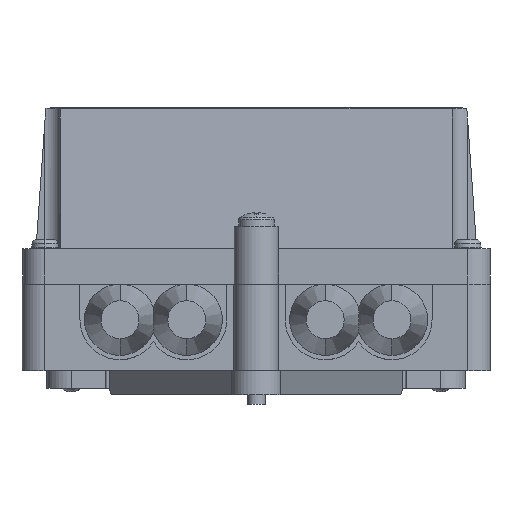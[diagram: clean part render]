
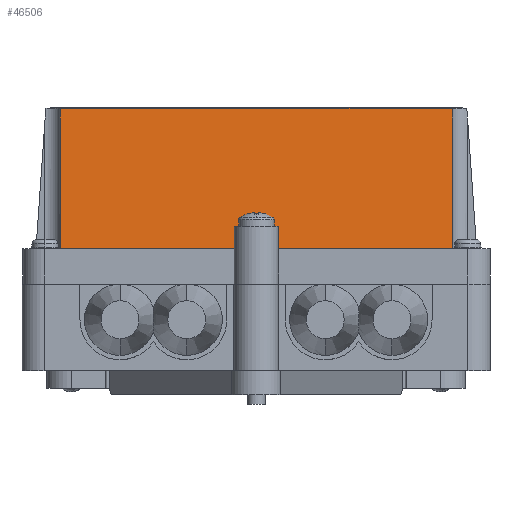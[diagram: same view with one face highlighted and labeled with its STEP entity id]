
A CAD part, front view. The second image highlights one B-rep face of the part: STEP entity #46506.
In plain terms, the highlighted planar face has unit normal (0, -0.998, 0.07).
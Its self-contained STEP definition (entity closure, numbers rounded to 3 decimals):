
#514 = LINE ( 'NONE', #49037, #30630 ) ;
#746 = EDGE_CURVE ( 'NONE', #20355, #37172, #73102, .T. ) ;
#907 = AXIS2_PLACEMENT_3D ( 'NONE', #26429, #2496, #44560 ) ;
#1738 = EDGE_LOOP ( 'NONE', ( #21098, #49455, #35083, #21026, #41678, #20118, #62234, #34161, #58195, #71707 ) ) ;
#2496 = DIRECTION ( 'NONE',  ( 0., -0.998, 0.07 ) ) ;
#2599 = CARTESIAN_POINT ( 'NONE',  ( -43.171, -23.964, 0. ) ) ;
#2615 = CARTESIAN_POINT ( 'NONE',  ( -43.177, -21.762, 31.5 ) ) ;
#4101 = VECTOR ( 'NONE', #27715, 1000. ) ;
#4158 = CARTESIAN_POINT ( 'NONE',  ( 44.829, -21.897, 29.568 ) ) ;
#4660 = CARTESIAN_POINT ( 'NONE',  ( 44.835, -21.762, 31.5 ) ) ;
#6947 = LINE ( 'NONE', #10438, #38939 ) ;
#6954 = FACE_OUTER_BOUND ( 'NONE', #1738, .T. ) ;
#9515 = CARTESIAN_POINT ( 'NONE',  ( 0., -21.762, 31.5 ) ) ;
#10438 = CARTESIAN_POINT ( 'NONE',  ( -48.671, -23.964, 0. ) ) ;
#10624 = CARTESIAN_POINT ( 'NONE',  ( 44.829, -21.964, 28.601 ) ) ;
#11756 = CARTESIAN_POINT ( 'NONE',  ( 48.329, -23.615, 5. ) ) ;
#14038 = DIRECTION ( 'NONE',  ( 0., -0.07, -0.998 ) ) ;
#15621 = LINE ( 'NONE', #2599, #61888 ) ;
#16511 = DIRECTION ( 'NONE',  ( 1., 0., 0. ) ) ;
#18978 = DIRECTION ( 'NONE',  ( 1., 0., 0. ) ) ;
#19560 = CARTESIAN_POINT ( 'NONE',  ( -4.171, -23.964, 0. ) ) ;
#19615 = CARTESIAN_POINT ( 'NONE',  ( -43.171, -21.897, 29.568 ) ) ;
#19726 = CARTESIAN_POINT ( 'NONE',  ( 5.829, -23.615, 5. ) ) ;
#20107 = EDGE_CURVE ( 'NONE', #51705, #61430, #23204, .T. ) ;
#20118 = ORIENTED_EDGE ( 'NONE', *, *, #44382, .T. ) ;
#20355 = VERTEX_POINT ( 'NONE', #34553 ) ;
#20599 = EDGE_CURVE ( 'NONE', #66283, #61430, #514, .T. ) ;
#20677 = DIRECTION ( 'NONE',  ( 0., 0.07, 0.998 ) ) ;
#21026 = ORIENTED_EDGE ( 'NONE', *, *, #20107, .F. ) ;
#21098 = ORIENTED_EDGE ( 'NONE', *, *, #746, .F. ) ;
#22255 = VECTOR ( 'NONE', #53971, 1000. ) ;
#23204 = LINE ( 'NONE', #50163, #55324 ) ;
#23727 = EDGE_CURVE ( 'NONE', #37172, #43423, #52123, .T. ) ;
#25723 = CARTESIAN_POINT ( 'NONE',  ( -43.171, -21.964, 28.601 ) ) ;
#26429 = CARTESIAN_POINT ( 'NONE',  ( -48.671, -23.964, 0. ) ) ;
#26818 = LINE ( 'NONE', #70127, #40901 ) ;
#27715 = DIRECTION ( 'NONE',  ( 1., 0., 0. ) ) ;
#30630 = VECTOR ( 'NONE', #18978, 1000. ) ;
#34161 = ORIENTED_EDGE ( 'NONE', *, *, #42209, .F. ) ;
#34553 = CARTESIAN_POINT ( 'NONE',  ( -43.171, -21.964, 28.601 ) ) ;
#35083 = ORIENTED_EDGE ( 'NONE', *, *, #20599, .T. ) ;
#37172 = VERTEX_POINT ( 'NONE', #2615 ) ;
#38472 = PLANE ( 'NONE',  #907 ) ;
#38939 = VECTOR ( 'NONE', #16511, 1000. ) ;
#39972 = VERTEX_POINT ( 'NONE', #65707 ) ;
#40901 = VECTOR ( 'NONE', #46043, 1000. ) ;
#41678 = ORIENTED_EDGE ( 'NONE', *, *, #60666, .F. ) ;
#42092 = EDGE_CURVE ( 'NONE', #43423, #56738, #64368, .T. ) ;
#42209 = EDGE_CURVE ( 'NONE', #56738, #78092, #43094, .T. ) ;
#42554 = EDGE_CURVE ( 'NONE', #66283, #20355, #15621, .T. ) ;
#43094 = LINE ( 'NONE', #52927, #59173 ) ;
#43423 = VERTEX_POINT ( 'NONE', #66975 ) ;
#44382 = EDGE_CURVE ( 'NONE', #50911, #39972, #26818, .T. ) ;
#44560 = DIRECTION ( 'NONE',  ( 0., -0.07, -0.998 ) ) ;
#46043 = DIRECTION ( 'NONE',  ( 0., -0.07, -0.998 ) ) ;
#46506 = ADVANCED_FACE ( 'NONE', ( #6954 ), #38472, .T. ) ;
#46559 = DIRECTION ( 'NONE',  ( 0., -0.07, -0.998 ) ) ;
#47014 = CARTESIAN_POINT ( 'NONE',  ( -4.171, -23.615, 5. ) ) ;
#49037 = CARTESIAN_POINT ( 'NONE',  ( -48.671, -23.964, 0. ) ) ;
#49455 = ORIENTED_EDGE ( 'NONE', *, *, #42554, .F. ) ;
#50163 = CARTESIAN_POINT ( 'NONE',  ( -4.171, -23.964, 0. ) ) ;
#50911 = VERTEX_POINT ( 'NONE', #19726 ) ;
#51705 = VERTEX_POINT ( 'NONE', #47014 ) ;
#52123 = LINE ( 'NONE', #9515, #4101 ) ;
#52927 = CARTESIAN_POINT ( 'NONE',  ( 44.829, -23.964, 0. ) ) ;
#53971 = DIRECTION ( 'NONE',  ( -1., 0., 0. ) ) ;
#55324 = VECTOR ( 'NONE', #14038, 1000. ) ;
#56738 = VERTEX_POINT ( 'NONE', #72641 ) ;
#58195 = ORIENTED_EDGE ( 'NONE', *, *, #42092, .F. ) ;
#58761 = EDGE_CURVE ( 'NONE', #39972, #78092, #6947, .T. ) ;
#59173 = VECTOR ( 'NONE', #46559, 1000. ) ;
#60666 = EDGE_CURVE ( 'NONE', #50911, #51705, #68520, .T. ) ;
#60783 = CARTESIAN_POINT ( 'NONE',  ( -43.171, -23.964, 0. ) ) ;
#61430 = VERTEX_POINT ( 'NONE', #19560 ) ;
#61823 = CARTESIAN_POINT ( 'NONE',  ( -43.173, -21.829, 30.535 ) ) ;
#61888 = VECTOR ( 'NONE', #20677, 1000. ) ;
#62234 = ORIENTED_EDGE ( 'NONE', *, *, #58761, .T. ) ;
#64177 = CARTESIAN_POINT ( 'NONE',  ( 44.829, -23.964, 0. ) ) ;
#64368 =( BOUNDED_CURVE ( )  B_SPLINE_CURVE ( 3, ( #4660, #70823, #4158, #10624 ),
 .UNSPECIFIED., .F., .F. ) 
 B_SPLINE_CURVE_WITH_KNOTS ( ( 4, 4 ),
 ( 4.654, 4.712 ),
 .UNSPECIFIED. ) 
 CURVE ( )  GEOMETRIC_REPRESENTATION_ITEM ( )  RATIONAL_B_SPLINE_CURVE ( ( 1., 1., 1., 1. ) ) 
 REPRESENTATION_ITEM ( '' )  );
#65707 = CARTESIAN_POINT ( 'NONE',  ( 5.829, -23.964, 0. ) ) ;
#66283 = VERTEX_POINT ( 'NONE', #60783 ) ;
#66975 = CARTESIAN_POINT ( 'NONE',  ( 44.835, -21.762, 31.5 ) ) ;
#67889 = CARTESIAN_POINT ( 'NONE',  ( -43.177, -21.762, 31.5 ) ) ;
#68520 = LINE ( 'NONE', #11756, #22255 ) ;
#70127 = CARTESIAN_POINT ( 'NONE',  ( 5.829, -24.555, -8.448 ) ) ;
#70823 = CARTESIAN_POINT ( 'NONE',  ( 44.831, -21.829, 30.535 ) ) ;
#71707 = ORIENTED_EDGE ( 'NONE', *, *, #23727, .F. ) ;
#72641 = CARTESIAN_POINT ( 'NONE',  ( 44.829, -21.964, 28.601 ) ) ;
#73102 =( BOUNDED_CURVE ( )  B_SPLINE_CURVE ( 3, ( #25723, #19615, #61823, #67889 ),
 .UNSPECIFIED., .F., .F. ) 
 B_SPLINE_CURVE_WITH_KNOTS ( ( 4, 4 ),
 ( 1.571, 1.629 ),
 .UNSPECIFIED. ) 
 CURVE ( )  GEOMETRIC_REPRESENTATION_ITEM ( )  RATIONAL_B_SPLINE_CURVE ( ( 1., 1., 1., 1. ) ) 
 REPRESENTATION_ITEM ( '' )  );
#78092 = VERTEX_POINT ( 'NONE', #64177 ) ;
